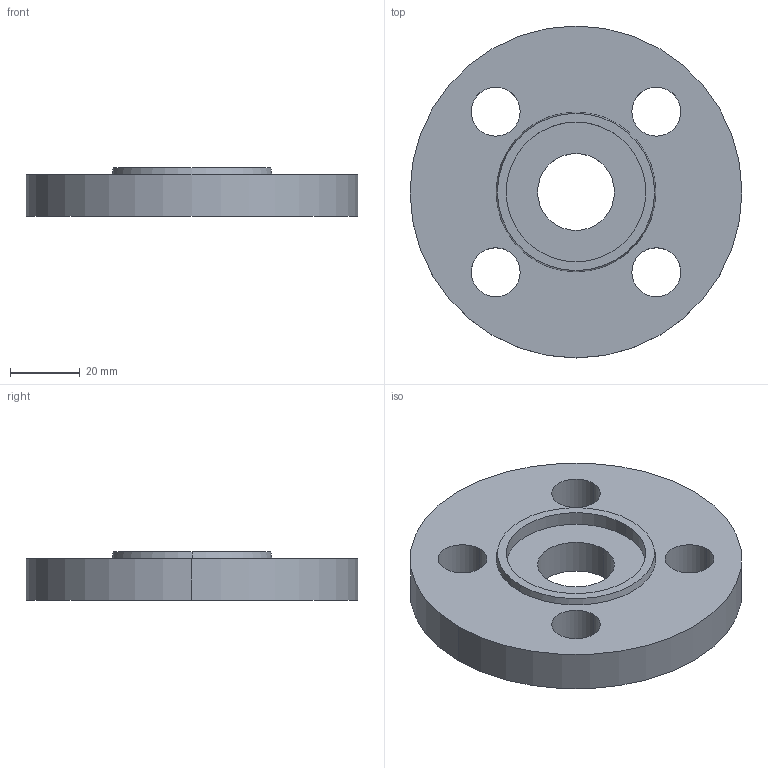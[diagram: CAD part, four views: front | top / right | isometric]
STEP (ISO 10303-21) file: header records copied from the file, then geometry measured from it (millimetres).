
FILE_DESCRIPTION (( 'STEP AP214' ), '1' );
FILE_NAME ('PN40 DN15 Type 01 - Type F Face.STEP', '2018-12-29T15:11:45', ( '' ), ( '' ), 'SwSTEP 2.0', 'SolidWorks 2019', '' );
FILE_SCHEMA (( 'AUTOMOTIVE_DESIGN' ));
Length unit declared in the file: millimetre
Products named in the file (1): PN40 DN15 Type 01 - Type F Face
Bounding box: 95 x 95 x 14 mm (x, y, z)
Volume: 72072.7 mm3; surface area: 19310.1 mm2
Topology: 1 solids, 1 shells, 20 faces, 48 edges, 32 vertices
Faces by surface type: cylinder 14, plane 4, cone 2
Entity records: 658 total; most frequent: DIRECTION 122, CARTESIAN_POINT 101, ORIENTED_EDGE 96, AXIS2_PLACEMENT_3D 53, EDGE_CURVE 48, CIRCLE 32, VERTEX_POINT 32, EDGE_LOOP 32
